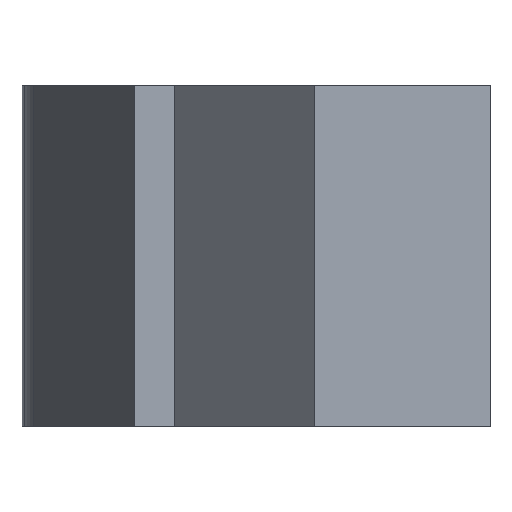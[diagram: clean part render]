
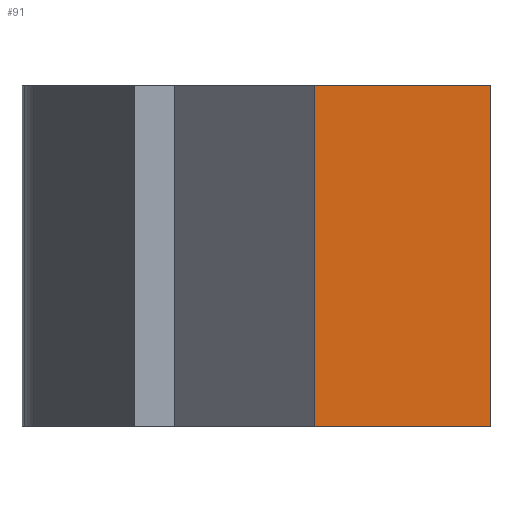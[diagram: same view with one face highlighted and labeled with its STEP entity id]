
A CAD part, left-side view. The second image highlights one B-rep face of the part: STEP entity #91.
In plain terms, the highlighted planar face has unit normal (-1, 0, 0).
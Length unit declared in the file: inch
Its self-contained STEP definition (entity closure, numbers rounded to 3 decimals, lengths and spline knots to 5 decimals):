
#28 = ORIENTED_EDGE ( 'NONE', *, *, #323, .T. ) ;
#44 = DIRECTION ( 'NONE',  ( 0., 0., 1. ) ) ;
#46 = VERTEX_POINT ( 'NONE', #417 ) ;
#54 = CARTESIAN_POINT ( 'NONE',  ( -4.781, 0.515, -1. ) ) ;
#64 = ORIENTED_EDGE ( 'NONE', *, *, #254, .F. ) ;
#66 = EDGE_CURVE ( 'NONE', #98, #46, #78, .T. ) ;
#78 = LINE ( 'NONE', #112, #131 ) ;
#81 = CARTESIAN_POINT ( 'NONE',  ( -4.781, 0., -1. ) ) ;
#91 = ADVANCED_FACE ( 'NONE', ( #409 ), #312, .T. ) ;
#98 = VERTEX_POINT ( 'NONE', #240 ) ;
#101 = DIRECTION ( 'NONE',  ( -1., 0., 0. ) ) ;
#112 = CARTESIAN_POINT ( 'NONE',  ( -4.781, 0., -1. ) ) ;
#131 = VECTOR ( 'NONE', #44, 39.37008 ) ;
#137 = CARTESIAN_POINT ( 'NONE',  ( -4.781, 0., -1. ) ) ;
#160 = VERTEX_POINT ( 'NONE', #178 ) ;
#176 = ORIENTED_EDGE ( 'NONE', *, *, #66, .T. ) ;
#178 = CARTESIAN_POINT ( 'NONE',  ( -4.781, 0.515, 0. ) ) ;
#183 = CARTESIAN_POINT ( 'NONE',  ( -4.781, 0.515, -1. ) ) ;
#219 = DIRECTION ( 'NONE',  ( 0., -1., 0. ) ) ;
#240 = CARTESIAN_POINT ( 'NONE',  ( -4.781, 0., -1. ) ) ;
#251 = ORIENTED_EDGE ( 'NONE', *, *, #357, .F. ) ;
#252 = LINE ( 'NONE', #81, #348 ) ;
#253 = AXIS2_PLACEMENT_3D ( 'NONE', #137, #101, #318 ) ;
#254 = EDGE_CURVE ( 'NONE', #342, #160, #394, .T. ) ;
#262 = CARTESIAN_POINT ( 'NONE',  ( -4.781, 0., 0. ) ) ;
#295 = VECTOR ( 'NONE', #418, 39.37008 ) ;
#298 = DIRECTION ( 'NONE',  ( 0., -1., 0. ) ) ;
#300 = LINE ( 'NONE', #262, #349 ) ;
#312 = PLANE ( 'NONE',  #253 ) ;
#318 = DIRECTION ( 'NONE',  ( 0., 0., 1. ) ) ;
#323 = EDGE_CURVE ( 'NONE', #342, #98, #252, .T. ) ;
#342 = VERTEX_POINT ( 'NONE', #183 ) ;
#348 = VECTOR ( 'NONE', #219, 39.37008 ) ;
#349 = VECTOR ( 'NONE', #298, 39.37008 ) ;
#357 = EDGE_CURVE ( 'NONE', #160, #46, #300, .T. ) ;
#358 = EDGE_LOOP ( 'NONE', ( #251, #64, #28, #176 ) ) ;
#394 = LINE ( 'NONE', #54, #295 ) ;
#409 = FACE_OUTER_BOUND ( 'NONE', #358, .T. ) ;
#417 = CARTESIAN_POINT ( 'NONE',  ( -4.781, 0., 0. ) ) ;
#418 = DIRECTION ( 'NONE',  ( 0., 0., 1. ) ) ;
